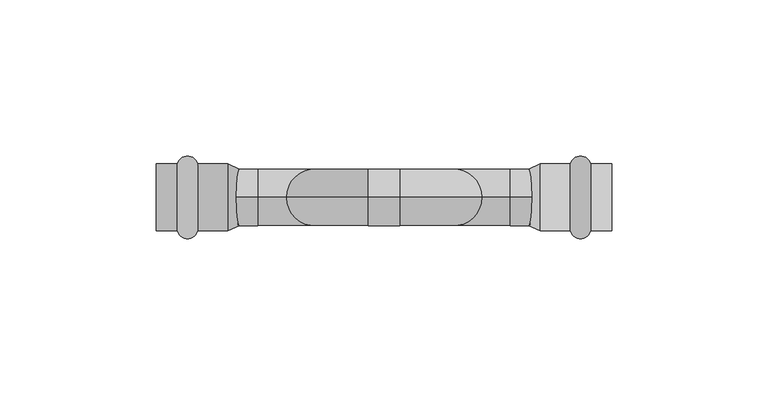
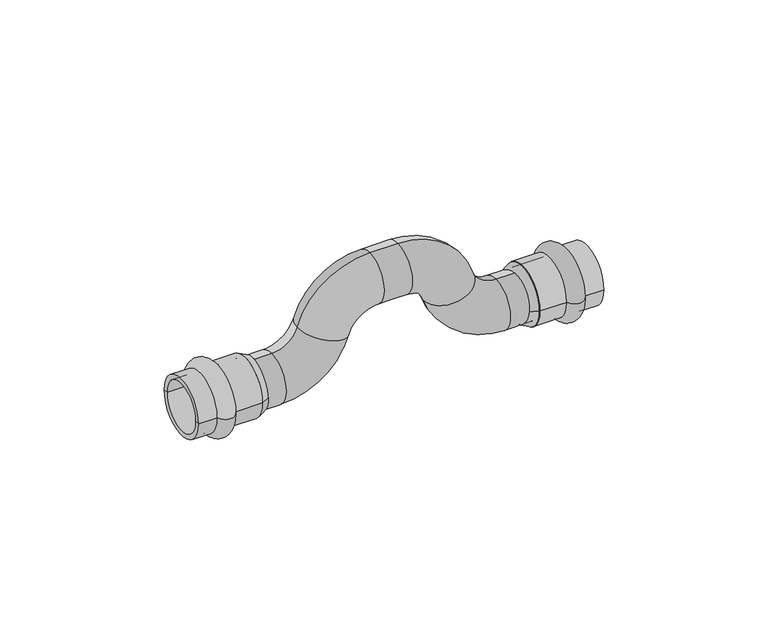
"""IFC4 building model written with IfcOpenShell, lengths in millimetres: pipe fitting geometry, VALTEC_VTi.971.I_Обвод (раструб–раструб)_Нержавеющая сталь : VTi.971.I."""

import ifcopenshell
import ifcopenshell.guid

model = None  # the IFC model being written
_history = None  # IfcOwnerHistory: only IFC2X3 demands one
_inside = {}  # id of a spatial element -> (the spatial element, [elements in it])
_under = {}  # id of a project, library or spatial element -> (it, [spatial elements below it])
_declared = {}  # id of a project -> (the project, [libraries it declares])
_typed = {}  # id of a type object -> (the type object, [elements of that type])
_made_of = {}  # id of a material, layer set ... -> (it, [elements and type objects made of it])


def new_model(schema):
    """Start an empty IFC model of exactly this schema.

    Asked for "IFC4X3", IfcOpenShell would pick the latest addendum, in which some entities
    have other attributes; the version numbers below select the first issue.
    IFC2X3 requires an IfcOwnerHistory on every rooted entity: one is made here for all.
    """
    global model, _history
    if schema == "IFC4X3":
        model = ifcopenshell.file(schema_version=(4, 3, 0, 0))
    else:
        model = ifcopenshell.file(schema=schema)
    _inside.clear()
    _under.clear()
    _declared.clear()
    _typed.clear()
    _made_of.clear()
    _history = None
    if model.schema == "IFC2X3":
        org = make("IfcOrganization", Name="unknown")
        user = make(
            "IfcPersonAndOrganization",
            ThePerson=make("IfcPerson", FamilyName="unknown"),
            TheOrganization=org,
        )
        app = make(
            "IfcApplication",
            ApplicationDeveloper=org,
            Version="unknown",
            ApplicationFullName="unknown",
            ApplicationIdentifier="unknown",
        )
        _history = make(
            "IfcOwnerHistory",
            OwningUser=user,
            OwningApplication=app,
            ChangeAction="ADDED",
            CreationDate=0,
        )
    return model


def make(cls, **values):
    """One entity of the class cls with the attributes given. An attribute that is None is left unset."""
    return model.create_entity(
        cls, **{name: value for name, value in values.items() if value is not None}
    )


def rooted(cls, **values):
    """An entity with a GlobalId (a new one), such as an element, a storey or a relation."""
    return make(cls, GlobalId=ifcopenshell.guid.new(), OwnerHistory=_history, **values)


def si_unit(unit_type, name, prefix=None):
    """IfcSIUnit, for example si_unit("LENGTHUNIT", "METRE", prefix="MILLI")."""
    return make("IfcSIUnit", UnitType=unit_type, Prefix=prefix, Name=name)


def assignment(units):
    """IfcUnitAssignment: the units of a project."""
    return None if units is None else make("IfcUnitAssignment", Units=units)


def point(xyz):
    """IfcCartesianPoint."""
    return None if xyz is None else make("IfcCartesianPoint", Coordinates=xyz)


def direction(xyz):
    """IfcDirection."""
    return None if xyz is None else make("IfcDirection", DirectionRatios=xyz)


def frame(location, z_axis=None, x_axis=None):
    """IfcAxis2Placement3D, a coordinate frame: its origin and axes. An axis left out is left unset."""
    return make(
        "IfcAxis2Placement3D",
        Location=point(location),
        Axis=direction(z_axis),
        RefDirection=direction(x_axis),
    )


def origin():
    """The frame at (0, 0, 0) with its axes left unset."""
    return frame((0.0, 0.0, 0.0))


def place(relative_to, where):
    """IfcLocalPlacement: puts the frame where relative to a parent placement (None: the world)."""
    return make(
        "IfcLocalPlacement", PlacementRelTo=relative_to, RelativePlacement=where
    )


def context(
    kind, dimensions, precision=None, world=None, true_north=None, identifier=None
):
    """IfcGeometricRepresentationContext, for example the 3D "Model" context."""
    return make(
        "IfcGeometricRepresentationContext",
        ContextIdentifier=identifier,
        ContextType=kind,
        CoordinateSpaceDimension=dimensions,
        Precision=precision,
        WorldCoordinateSystem=world,
        TrueNorth=true_north,
    )


def project(units=None, contexts=None):
    """IfcProject with its units and contexts."""
    return rooted(
        "IfcProject",
        Name="project",
        RepresentationContexts=contexts,
        UnitsInContext=assignment(units),
    )


def spatial(cls, under=None, at=None, **own):
    """A site, building, storey or space (cls), placed at a placement, below another one or the project."""
    s = rooted(cls, ObjectPlacement=at, **own)
    if under is not None:
        _under.setdefault(under.id(), (under, []))[1].append(s)
    return s


def polyline(points):
    """IfcPolyline through the points."""
    return make("IfcPolyline", Points=[point(p) for p in points])


def circle_curve(where, radius):
    """IfcCircle in the frame where."""
    return make("IfcCircle", Position=where, Radius=radius)


def ellipse_curve(where, semi_axis1, semi_axis2):
    """IfcEllipse in the frame where."""
    return make(
        "IfcEllipse", Position=where, SemiAxis1=semi_axis1, SemiAxis2=semi_axis2
    )


def trimmed(basis, trim1, trim2, sense, master):
    """IfcTrimmedCurve: the piece of a basis curve between two trims."""
    return make(
        "IfcTrimmedCurve",
        BasisCurve=basis,
        Trim1=trim1,
        Trim2=trim2,
        SenseAgreement=sense,
        MasterRepresentation=master,
    )


def shape(context_of_items, identifier, shape_type, items):
    """IfcShapeRepresentation: the items that make up one representation, for example the "Body"."""
    return make(
        "IfcShapeRepresentation",
        ContextOfItems=context_of_items,
        RepresentationIdentifier=identifier,
        RepresentationType=shape_type,
        Items=items,
    )


def source(mapping_origin, context_of_items, identifier, shape_type, items):
    """IfcRepresentationMap: a shape defined once, which mapped items show again and again."""
    return make(
        "IfcRepresentationMap",
        MappingOrigin=mapping_origin,
        MappedRepresentation=shape(context_of_items, identifier, shape_type, items),
    )


def transform(
    local_origin,
    x_axis=None,
    y_axis=None,
    z_axis=None,
    scale=None,
    scale2=None,
    scale3=None,
    uniform=True,
):
    """IfcCartesianTransformationOperator3D, or its non-uniform kind. x_axis, y_axis, z_axis: its Axis1, 2, 3."""
    if uniform:
        return make(
            "IfcCartesianTransformationOperator3D",
            Axis1=direction(x_axis),
            Axis2=direction(y_axis),
            LocalOrigin=point(local_origin),
            Scale=scale,
            Axis3=direction(z_axis),
        )
    return make(
        "IfcCartesianTransformationOperator3DnonUniform",
        Axis1=direction(x_axis),
        Axis2=direction(y_axis),
        LocalOrigin=point(local_origin),
        Scale=scale,
        Axis3=direction(z_axis),
        Scale2=scale2,
        Scale3=scale3,
    )


def mapped(mapping_source, mapping_target):
    """IfcMappedItem: shows the shape of a source again, moved by a transform."""
    return make(
        "IfcMappedItem", MappingSource=mapping_source, MappingTarget=mapping_target
    )


def made_of(thing, what):
    """Note that an element or type object is made of a material, layer set ...; save() writes the relation."""
    if what is not None:
        _made_of.setdefault(what.id(), (what, []))[1].append(thing)
    return thing


def element(
    cls,
    number,
    at=None,
    inside=None,
    cuts=None,
    type_object=None,
    material=None,
    context=None,
    identifier="Body",
    shape_type=None,
    held_by="IfcProductDefinitionShape",
    body=None,
    shapes=None,
    **own,
):
    """One element of the class cls, such as IfcWall. Its Tag is "e" and its number.

    at: its placement. inside: the storey or other place that contains it. cuts: it is an
    opening in that element (IfcRelVoidsElement). A single representation is given by context,
    identifier, shape_type and body (its items); several are given by shapes. held_by: the class
    of the entity that holds the representations. save() writes the other relations.
    """
    e = rooted(cls, Tag="e%d" % number, ObjectPlacement=at, **own)
    if body is not None:
        shapes = [shape(context, identifier, shape_type, body)]
    if shapes is not None:
        e.Representation = make(held_by, Representations=shapes)
    if inside is not None:
        _inside.setdefault(inside.id(), (inside, []))[1].append(e)
    if cuts is not None:
        rooted(
            "IfcRelVoidsElement", RelatingBuildingElement=cuts, RelatedOpeningElement=e
        )
    if type_object is not None:
        _typed.setdefault(type_object.id(), (type_object, []))[1].append(e)
    return made_of(e, material)


def aggregate(whole, parts):
    """IfcRelAggregates: a whole, such as a stair, and the parts it consists of."""
    return rooted("IfcRelAggregates", RelatingObject=whole, RelatedObjects=parts)


def save(model, path):
    """Write the relations noted so far, then the file.

    IfcRelAggregates (storeys below a building ...), IfcRelContainedInSpatialStructure (elements
    in a storey), IfcRelDefinesByType, IfcRelAssociatesMaterial and IfcRelDeclares: one each for
    every whole, place, type object, material and project.
    """
    for whole, parts in _under.values():
        aggregate(whole, parts)
    for where, things in _inside.values():
        rooted(
            "IfcRelContainedInSpatialStructure",
            RelatedElements=things,
            RelatingStructure=where,
        )
    for kind, things in _typed.values():
        rooted("IfcRelDefinesByType", RelatedObjects=things, RelatingType=kind)
    for what, things in _made_of.values():
        rooted("IfcRelAssociatesMaterial", RelatedObjects=things, RelatingMaterial=what)
    for by, libraries in _declared.values():
        rooted("IfcRelDeclares", RelatingContext=by, RelatedDefinitions=libraries)
    model.write(path)


def plane_surface(at):
    """IfcPlane: the flat surface through the origin of the frame at, square to its z axis."""
    return make("IfcPlane", Position=at)


def cylinder_surface(at, radius):
    """IfcCylindricalSurface: all points at the distance radius from the z axis of the frame at."""
    return make("IfcCylindricalSurface", Position=at, Radius=radius)


def revolved_surface(curve, axis_point, axis_direction):
    """IfcSurfaceOfRevolution: the curve turned about the line through axis_point along axis_direction."""
    return make(
        "IfcSurfaceOfRevolution",
        SweptCurve=make("IfcArbitraryOpenProfileDef", ProfileType="CURVE", Curve=curve),
        AxisPosition=make("IfcAxis1Placement", Location=point(axis_point), Axis=direction(axis_direction)),
    )


def advanced_brep(points, edges, surfaces, faces):
    """IfcAdvancedBrep: a solid bounded by faces that lie on surfaces and meet in shared edges.

    An edge is (start, end): straight between two places in points (the first is 0);
    or (start, end, curve); or (start, end, curve, False) where it runs against its curve.
    A face is (place in surfaces, loops), or (place, loops, False) where it looks against
    its surface's normal. A loop lists edges by number (the first is 1), with a minus sign
    where the edge is run from its end to its start. The first loop is the outer one.
    """
    corners = [point(p) for p in points]
    vertices = [make("IfcVertexPoint", VertexGeometry=c) for c in corners]
    made = []
    for start, end, *more in edges:
        made.append(
            make(
                "IfcEdgeCurve",
                EdgeStart=vertices[start],
                EdgeEnd=vertices[end],
                EdgeGeometry=more[0] if more else make("IfcPolyline", Points=[corners[start], corners[end]]),
                SameSense=more[1] if len(more) > 1 else True,
            )
        )
    hull = []
    for where, loops, *sense in faces:
        bounds = []
        for j, loop in enumerate(loops):
            ring = [make("IfcOrientedEdge", EdgeElement=made[abs(k) - 1], Orientation=k > 0) for k in loop]
            bounds.append(
                make(
                    "IfcFaceOuterBound" if j == 0 else "IfcFaceBound",
                    Bound=make("IfcEdgeLoop", EdgeList=ring),
                    Orientation=True,
                )
            )
        hull.append(make("IfcAdvancedFace", Bounds=bounds, FaceSurface=surfaces[where], SameSense=sense[0] if sense else True))
    return make("IfcAdvancedBrep", Outer=make("IfcClosedShell", CfsFaces=hull))


def pipe_fitting_1103fa87(model_context):
    return source(origin(), model_context, "Body", "AdvancedBrep", [
        advanced_brep(
        [(-50.0, 0.0, -9.0), (-50.0, 0.0, 9.0), (-40.5, 0.0, -9.0), (-40.5, 0.0, 9.0), (-5.0, 0.0, 35.0), (-5.0, 0.0, 17.0), (5.0, 0.0, 17.0), (5.0, 0.0, 35.0), (50.0, 0.0, -9.0), (50.0, 0.0, 9.0), (40.5, 0.0, 9.0), (40.5, 0.0, -9.0), (-31.3305036, 0.0, 15.7156875), (-14.1694964, 0.0, 10.2843125), (31.3305036, 0.0, 15.7156875), (14.1694964, 0.0, 10.2843125)],
        [
            (0, 1, circle_curve(frame((-50.0, 0.0, 0.0), z_axis=(-1.0, 0.0, 0.0), x_axis=(0.0, 0.0, 1.0)), 9.0)),
            (1, 0, circle_curve(frame((-50.0, 0.0, 0.0), z_axis=(-1.0, 0.0, 0.0), x_axis=(0.0, 0.0, 1.0)), 9.0)),
            (0, 2),
            (2, 3, circle_curve(frame((-40.5, 0.0, 0.0), z_axis=(-1.0, 0.0, 0.0), x_axis=(0.0, 0.0, 1.0)), 9.0)),
            (3, 1),
            (3, 2, circle_curve(frame((-40.5, 0.0, 0.0), z_axis=(-1.0, 0.0, 0.0), x_axis=(0.0, 0.0, 1.0)), 9.0)),
            (4, 5, circle_curve(frame((-5.0, 0.0, 26.0), z_axis=(1.0, 0.0, 0.0), x_axis=(0.0, 0.0, 1.0)), 9.0)),
            (5, 6),
            (6, 7, circle_curve(frame((5.0, 0.0, 26.0), z_axis=(-1.0, 0.0, 0.0), x_axis=(0.0, 0.0, 1.0)), 9.0)),
            (7, 4),
            (5, 4, circle_curve(frame((-5.0, 0.0, 26.0), z_axis=(1.0, 0.0, 0.0), x_axis=(0.0, 0.0, 1.0)), 9.0)),
            (7, 6, circle_curve(frame((5.0, 0.0, 26.0), z_axis=(-1.0, 0.0, 0.0), x_axis=(0.0, 0.0, 1.0)), 9.0)),
            (8, 9, circle_curve(frame((50.0, 0.0, 0.0), z_axis=(1.0, 0.0, 0.0), x_axis=(0.0, 0.0, 1.0)), 9.0)),
            (9, 8, circle_curve(frame((50.0, 0.0, 0.0), z_axis=(1.0, 0.0, 0.0), x_axis=(0.0, 0.0, 1.0)), 9.0)),
            (10, 11, circle_curve(frame((40.5, 0.0, 0.0), z_axis=(1.0, 0.0, 0.0), x_axis=(0.0, 0.0, 1.0)), 9.0)),
            (11, 8),
            (9, 10),
            (11, 10, circle_curve(frame((40.5, 0.0, 0.0), z_axis=(1.0, 0.0, 0.0), x_axis=(0.0, 0.0, 1.0)), 9.0)),
            (12, 3, circle_curve(frame((-40.5, 0.0, 18.6177885), z_axis=(0.0, 1.0, 0.0), x_axis=(0.0, 0.0, -1.0)), 9.6177885)),
            (2, 13, circle_curve(frame((-40.5, 0.0, 18.6177885), z_axis=(0.0, -1.0, 0.0), x_axis=(0.0, 0.0, -1.0)), 27.6177885)),
            (13, 12, circle_curve(frame((-22.75, 0.0, 13.0), z_axis=(-0.3017430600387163, 0.0, -0.9533892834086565), x_axis=(-0.9533892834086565, 0.0, 0.3017430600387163)), 9.0)),
            (12, 13, circle_curve(frame((-22.75, 0.0, 13.0), z_axis=(-0.30174306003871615, 0.0, -0.9533892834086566), x_axis=(-0.9533892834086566, 0.0, 0.30174306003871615)), 9.0)),
            (4, 12, circle_curve(frame((-5.0, 0.0, 7.3822115), z_axis=(0.0, -1.0, 0.0), x_axis=(-0.9533892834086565, 0.0, 0.3017430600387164)), 27.6177885)),
            (13, 5, circle_curve(frame((-5.0, 0.0, 7.3822115), z_axis=(0.0, 1.0, 0.0), x_axis=(-0.9533892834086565, 0.0, 0.3017430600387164)), 9.6177885)),
            (14, 7, circle_curve(frame((5.0, 0.0, 7.3822115), z_axis=(0.0, -1.0, 0.0), x_axis=(0.0, 0.0, 1.0)), 27.6177885)),
            (6, 15, circle_curve(frame((5.0, 0.0, 7.3822115), z_axis=(0.0, 1.0, 0.0), x_axis=(0.0, 0.0, 1.0)), 9.6177885)),
            (15, 14, circle_curve(frame((22.75, 0.0, 13.0), z_axis=(-0.3017430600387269, 0.0, 0.9533892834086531), x_axis=(0.9533892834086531, 0.0, 0.3017430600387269)), 9.0)),
            (14, 15, circle_curve(frame((22.75, 0.0, 13.0), z_axis=(-0.3017430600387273, 0.0, 0.953389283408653), x_axis=(0.953389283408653, 0.0, 0.3017430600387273)), 9.0)),
            (10, 14, circle_curve(frame((40.5, 0.0, 18.6177885), z_axis=(0.0, 1.0, 0.0), x_axis=(-0.953389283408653, 0.0, -0.3017430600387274)), 9.6177885)),
            (15, 11, circle_curve(frame((40.5, 0.0, 18.6177885), z_axis=(0.0, -1.0, 0.0), x_axis=(-0.953389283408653, 0.0, -0.3017430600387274)), 27.6177885)),
        ],
        [
            plane_surface(frame((-50.0, 0.0, 0.0), z_axis=(-1.0, 0.0, 0.0), x_axis=(0.0, -1.0, 0.0))),
            cylinder_surface(frame((-50.0, 0.0, 0.0), z_axis=(-1.0, 0.0, 0.0), x_axis=(0.0, 0.0, 1.0)), 9.0),
            cylinder_surface(frame((-5.0, 0.0, 26.0), z_axis=(-1.0, 0.0, 0.0), x_axis=(0.0, 0.0, 1.0)), 9.0),
            plane_surface(frame((50.0, 0.0, 0.0), z_axis=(1.0, 0.0, 0.0), x_axis=(0.0, -1.0, 0.0))),
            cylinder_surface(frame((40.5, 0.0, 0.0), z_axis=(-1.0, 0.0, 0.0), x_axis=(0.0, 0.0, 1.0)), 9.0),
            revolved_surface(trimmed(ellipse_curve(frame((-40.5, 0.0, 0.0), z_axis=(-1.0, 0.0, 0.0), x_axis=(0.0, 0.0, 1.0)), 9.0, 9.0), [point((-40.5, 0.0, -9.0))], [point((-40.5, 0.0, 9.0))], True, "CARTESIAN"), (-40.5, 0.0, 18.6177885), (0.0, -1.0, 0.0)),
            revolved_surface(trimmed(ellipse_curve(frame((-40.5, 0.0, 0.0), z_axis=(-1.0, 0.0, 0.0), x_axis=(0.0, 0.0, 1.0)), 9.0, 9.0), [point((-40.5, 0.0, 9.0))], [point((-40.5, 0.0, -9.0))], True, "CARTESIAN"), (-40.5, 0.0, 18.6177885), (0.0, -1.0, 0.0)),
            revolved_surface(trimmed(ellipse_curve(frame((-22.75, 0.0, 13.0), z_axis=(-0.30174306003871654, 0.0, -0.9533892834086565), x_axis=(-0.9533892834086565, 0.0, 0.30174306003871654)), 9.0, 9.0), [point((-14.1694964, 0.0, 10.2843125))], [point((-31.3305036, 0.0, 15.7156875))], True, "CARTESIAN"), (-5.0, 0.0, 7.3822115), (0.0, 1.0, 0.0)),
            revolved_surface(trimmed(ellipse_curve(frame((-22.75, 0.0, 13.0), z_axis=(-0.30174306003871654, 0.0, -0.9533892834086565), x_axis=(-0.9533892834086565, 0.0, 0.30174306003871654)), 9.0, 9.0), [point((-31.3305036, 0.0, 15.7156875))], [point((-14.1694964, 0.0, 10.2843125))], True, "CARTESIAN"), (-5.0, 0.0, 7.3822115), (0.0, 1.0, 0.0)),
            revolved_surface(trimmed(ellipse_curve(frame((5.0, 0.0, 26.0), z_axis=(-1.0, 0.0, 0.0), x_axis=(0.0, 0.0, 1.0)), 9.0, 9.0), [point((5.0, 0.0, 17.0))], [point((5.0, 0.0, 35.0))], True, "CARTESIAN"), (5.0, 0.0, 7.3822115), (0.0, 1.0, 0.0)),
            revolved_surface(trimmed(ellipse_curve(frame((5.0, 0.0, 26.0), z_axis=(-1.0, 0.0, 0.0), x_axis=(0.0, 0.0, 1.0)), 9.0, 9.0), [point((5.0, 0.0, 35.0))], [point((5.0, 0.0, 17.0))], True, "CARTESIAN"), (5.0, 0.0, 7.3822115), (0.0, 1.0, 0.0)),
            revolved_surface(trimmed(ellipse_curve(frame((22.75, 0.0, 13.0), z_axis=(-0.30174306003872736, 0.0, 0.953389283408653), x_axis=(0.953389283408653, 0.0, 0.30174306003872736)), 9.0, 9.0), [point((14.1694964, 0.0, 10.2843125))], [point((31.3305036, 0.0, 15.7156875))], True, "CARTESIAN"), (40.5, 0.0, 18.6177885), (0.0, -1.0, 0.0)),
            revolved_surface(trimmed(ellipse_curve(frame((22.75, 0.0, 13.0), z_axis=(-0.30174306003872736, 0.0, 0.953389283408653), x_axis=(0.953389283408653, 0.0, 0.30174306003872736)), 9.0, 9.0), [point((31.3305036, 0.0, 15.7156875))], [point((14.1694964, 0.0, 10.2843125))], True, "CARTESIAN"), (40.5, 0.0, 18.6177885), (0.0, -1.0, 0.0)),
        ],
        [
            (0, [[1, 2]]),
            (1, [[-1, 3, 4, 5]]),
            (1, [[-2, -5, 6, -3]]),
            (2, [[7, 8, 9, 10]]),
            (2, [[11, -10, 12, -8]]),
            (3, [[13, 14]]),
            (4, [[15, 16, -14, 17]]),
            (4, [[18, -17, -13, -16]]),
            (5, [[19, -4, 20, 21]]),
            (6, [[-20, -6, -19, 22]]),
            (7, [[23, -21, 24, -7]]),
            (8, [[-24, -22, -23, -11]]),
            (9, [[25, -9, 26, 27]]),
            (10, [[-26, -12, -25, 28]]),
            (11, [[29, -27, 30, -15]]),
            (12, [[-30, -28, -29, -18]]),
        ],
    ),
        advanced_brep(
        [(66.2287193, -10.75, 0.0), (59.6712807, -10.75, 0.0), (59.6712807, 10.75, 0.0), (66.2287193, 10.75, 0.0), (73.0, -10.75, 0.0), (73.0, 10.75, 0.0), (73.0, -9.0, 0.0), (73.0, 9.0, 0.0), (50.0, -9.0, 0.0), (50.0, 9.0, 0.0), (50.0, -10.75, 0.0), (50.0, 10.75, 0.0)],
        [
            (0, 1, circle_curve(frame((62.95, -9.85, 0.0), z_axis=(0.0, 0.0, -1.0), x_axis=(-1.0, 0.0, 0.0)), 3.4)),
            (1, 2, circle_curve(frame((59.6712807, 0.0, 0.0), z_axis=(1.0, 0.0, 0.0), x_axis=(0.0, 1.0, 0.0)), 10.75)),
            (2, 3, circle_curve(frame((62.95, 9.85, 0.0), z_axis=(0.0, 0.0, -1.0), x_axis=(-1.0, 0.0, 0.0)), 3.4)),
            (3, 0, circle_curve(frame((66.2287193, 0.0, 0.0), z_axis=(-1.0, 0.0, 0.0), x_axis=(0.0, 1.0, 0.0)), 10.75)),
            (2, 1, circle_curve(frame((59.6712807, 0.0, 0.0), z_axis=(1.0, 0.0, 0.0), x_axis=(0.0, 1.0, 0.0)), 10.75)),
            (0, 3, circle_curve(frame((66.2287193, 0.0, 0.0), z_axis=(-1.0, 0.0, 0.0), x_axis=(0.0, 1.0, 0.0)), 10.75)),
            (4, 0),
            (3, 5),
            (5, 4, circle_curve(frame((73.0, 0.0, 0.0), z_axis=(-1.0, 0.0, 0.0), x_axis=(0.0, 1.0, 0.0)), 10.75)),
            (4, 5, circle_curve(frame((73.0, 0.0, 0.0), z_axis=(-1.0, 0.0, 0.0), x_axis=(0.0, 1.0, 0.0)), 10.75)),
            (6, 4),
            (5, 7),
            (7, 6, circle_curve(frame((73.0, 0.0, 0.0), z_axis=(-1.0, 0.0, 0.0), x_axis=(0.0, 1.0, 0.0)), 9.0)),
            (6, 7, circle_curve(frame((73.0, 0.0, 0.0), z_axis=(-1.0, 0.0, 0.0), x_axis=(0.0, 1.0, 0.0)), 9.0)),
            (8, 6),
            (7, 9),
            (9, 8, circle_curve(frame((50.0, 0.0, 0.0), z_axis=(-1.0, 0.0, 0.0), x_axis=(0.0, 1.0, 0.0)), 9.0)),
            (8, 9, circle_curve(frame((50.0, 0.0, 0.0), z_axis=(-1.0, 0.0, 0.0), x_axis=(0.0, 1.0, 0.0)), 9.0)),
            (10, 8),
            (9, 11),
            (11, 10, circle_curve(frame((50.0, 0.0, 0.0), z_axis=(-1.0, 0.0, 0.0), x_axis=(0.0, 1.0, 0.0)), 10.75)),
            (10, 11, circle_curve(frame((50.0, 0.0, 0.0), z_axis=(-1.0, 0.0, 0.0), x_axis=(0.0, 1.0, 0.0)), 10.75)),
            (1, 10),
            (11, 2),
        ],
        [
            revolved_surface(trimmed(ellipse_curve(frame((62.95, 9.85, 0.0), z_axis=(0.0, 0.0, -1.0), x_axis=(-1.0, 0.0, 0.0)), 3.4, 3.4), [point((59.6712807, 10.75, 0.0))], [point((66.2287193, 10.75, 0.0))], True, "CARTESIAN"), (76.5364426, 0.0, 0.0), (1.0, 0.0, 0.0)),
            cylinder_surface(frame((76.5364426, 0.0, 0.0), z_axis=(1.0, 0.0, 0.0), x_axis=(0.0, 1.0, 0.0)), 10.75),
            plane_surface(frame((73.0, 0.0, 0.0), z_axis=(1.0, 0.0, 0.0), x_axis=(0.0, 1.0, 0.0))),
            revolved_surface(polyline([(73.0, 9.0, 0.0), (50.0, 9.0, 0.0)]), (76.5364426, 0.0, 0.0), (1.0, 0.0, 0.0)),
            plane_surface(frame((50.0, 0.0, 0.0), z_axis=(-1.0, 0.0, 0.0), x_axis=(0.0, 1.0, 0.0))),
        ],
        [
            (0, [[1, 2, 3, 4]]),
            (0, [[-3, 5, -1, 6]]),
            (1, [[7, -4, 8, 9]]),
            (1, [[-8, -6, -7, 10]]),
            (2, [[11, -9, 12, 13]]),
            (2, [[-12, -10, -11, 14]]),
            (3, [[15, -13, 16, 17]]),
            (3, [[-16, -14, -15, 18]]),
            (4, [[19, -17, 20, 21]]),
            (4, [[-20, -18, -19, 22]]),
            (1, [[23, -21, 24, -2]]),
            (1, [[-24, -22, -23, -5]]),
        ],
    ),
        advanced_brep(
        [(-66.2287193, -10.75, 0.0), (-66.2287193, 10.75, 0.0), (-59.6712807, 10.75, 0.0), (-59.6712807, -10.75, 0.0), (-73.0, -10.75, 0.0), (-73.0, 10.75, 0.0), (-73.0, -9.0, 0.0), (-73.0, 9.0, 0.0), (-50.0, -9.0, 0.0), (-50.0, 9.0, 0.0), (-50.0, -10.75, 0.0), (-50.0, 10.75, 0.0)],
        [
            (0, 1, circle_curve(frame((-66.2287193, 0.0, 0.0), z_axis=(1.0, 0.0, 0.0), x_axis=(0.0, 1.0, 0.0)), 10.75)),
            (1, 2, circle_curve(frame((-62.95, 9.85, 0.0), z_axis=(0.0, 0.0, -1.0), x_axis=(1.0, 0.0, 0.0)), 3.4)),
            (2, 3, circle_curve(frame((-59.6712807, 0.0, 0.0), z_axis=(-1.0, 0.0, 0.0), x_axis=(0.0, 1.0, 0.0)), 10.75)),
            (3, 0, circle_curve(frame((-62.95, -9.85, 0.0), z_axis=(0.0, 0.0, -1.0), x_axis=(1.0, 0.0, 0.0)), 3.4)),
            (1, 0, circle_curve(frame((-66.2287193, 0.0, 0.0), z_axis=(1.0, 0.0, 0.0), x_axis=(0.0, 1.0, 0.0)), 10.75)),
            (3, 2, circle_curve(frame((-59.6712807, 0.0, 0.0), z_axis=(-1.0, 0.0, 0.0), x_axis=(0.0, 1.0, 0.0)), 10.75)),
            (4, 5, circle_curve(frame((-73.0, 0.0, 0.0), z_axis=(1.0, 0.0, 0.0), x_axis=(0.0, 1.0, 0.0)), 10.75)),
            (5, 1),
            (0, 4),
            (5, 4, circle_curve(frame((-73.0, 0.0, 0.0), z_axis=(1.0, 0.0, 0.0), x_axis=(0.0, 1.0, 0.0)), 10.75)),
            (6, 7, circle_curve(frame((-73.0, 0.0, 0.0), z_axis=(1.0, 0.0, 0.0), x_axis=(0.0, 1.0, 0.0)), 9.0)),
            (7, 5),
            (4, 6),
            (7, 6, circle_curve(frame((-73.0, 0.0, 0.0), z_axis=(1.0, 0.0, 0.0), x_axis=(0.0, 1.0, 0.0)), 9.0)),
            (8, 9, circle_curve(frame((-50.0, 0.0, 0.0), z_axis=(1.0, 0.0, 0.0), x_axis=(0.0, 1.0, 0.0)), 9.0)),
            (9, 7),
            (6, 8),
            (9, 8, circle_curve(frame((-50.0, 0.0, 0.0), z_axis=(1.0, 0.0, 0.0), x_axis=(0.0, 1.0, 0.0)), 9.0)),
            (10, 11, circle_curve(frame((-50.0, 0.0, 0.0), z_axis=(1.0, 0.0, 0.0), x_axis=(0.0, 1.0, 0.0)), 10.75)),
            (11, 9),
            (8, 10),
            (11, 10, circle_curve(frame((-50.0, 0.0, 0.0), z_axis=(1.0, 0.0, 0.0), x_axis=(0.0, 1.0, 0.0)), 10.75)),
            (2, 11),
            (10, 3),
        ],
        [
            revolved_surface(trimmed(ellipse_curve(frame((-62.95, 9.85, 0.0), z_axis=(0.0, 0.0, 1.0), x_axis=(1.0, 0.0, 0.0)), 3.4, 3.4), [point((-59.6712807, 10.75, 0.0))], [point((-66.2287193, 10.75, 0.0))], True, "CARTESIAN"), (-76.5364426, 0.0, 0.0), (-1.0, 0.0, 0.0)),
            cylinder_surface(frame((-76.5364426, 0.0, 0.0), z_axis=(-1.0, 0.0, 0.0), x_axis=(0.0, 1.0, 0.0)), 10.75),
            plane_surface(frame((-73.0, 0.0, 0.0), z_axis=(-1.0, 0.0, 0.0), x_axis=(0.0, 1.0, 0.0))),
            revolved_surface(polyline([(-73.0, 9.0, 0.0), (-50.0, 9.0, 0.0)]), (-76.5364426, 0.0, 0.0), (-1.0, 0.0, 0.0)),
            plane_surface(frame((-50.0, 0.0, 0.0), z_axis=(1.0, 0.0, 0.0), x_axis=(0.0, 1.0, 0.0))),
        ],
        [
            (0, [[1, 2, 3, 4]]),
            (0, [[5, -4, 6, -2]]),
            (1, [[7, 8, -1, 9]]),
            (1, [[10, -9, -5, -8]]),
            (2, [[11, 12, -7, 13]]),
            (2, [[14, -13, -10, -12]]),
            (3, [[15, 16, -11, 17]]),
            (3, [[18, -17, -14, -16]]),
            (4, [[19, 20, -15, 21]]),
            (4, [[22, -21, -18, -20]]),
            (1, [[-3, 23, -19, 24]]),
            (1, [[-6, -24, -22, -23]]),
        ],
    ),
        advanced_brep(
        [(50.0, 10.75, 0.0), (50.0, -10.75, 0.0), (46.3, 9.0, 0.0), (46.3, -9.0, 0.0)],
        [
            (0, 1, circle_curve(frame((50.0, 0.0, 0.0), z_axis=(1.0, 0.0, 0.0), x_axis=(0.0, 1.0, 0.0)), 10.75)),
            (1, 0, circle_curve(frame((50.0, 0.0, 0.0), z_axis=(1.0, 0.0, 0.0), x_axis=(0.0, -1.0, 0.0)), 10.75)),
            (2, 3, circle_curve(frame((46.3, 0.0, 0.0), z_axis=(-1.0, 0.0, 0.0), x_axis=(0.0, -1.0, 0.0)), 9.0)),
            (3, 2, circle_curve(frame((46.3, 0.0, 0.0), z_axis=(-1.0, 0.0, 0.0), x_axis=(0.0, 1.0, 0.0)), 9.0)),
            (1, 3),
            (2, 0),
        ],
        [
            plane_surface(frame((50.0, 0.0, 0.0), z_axis=(1.0, 0.0, 0.0), x_axis=(0.0, 0.0, -1.0))),
            plane_surface(frame((46.3, 0.0, 0.0), z_axis=(-1.0, 0.0, 0.0), x_axis=(0.0, 0.0, -1.0))),
            revolved_surface(polyline([(46.3, 8.999999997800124, 0.0), (50.0, 10.75, 0.0)]), (27.2714286, 0.0, 0.0), (1.0, 0.0, 0.0)),
            revolved_surface(polyline([(46.3, -8.999999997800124, 0.0), (50.0, -10.75, 0.0)]), (27.2714286, 0.0, 0.0), (1.0, 0.0, 0.0)),
        ],
        [
            (0, [[1, 2]]),
            (1, [[3, 4]]),
            (2, [[-2, 5, -3, 6]]),
            (3, [[-1, -6, -4, -5]]),
        ],
    ),
        advanced_brep(
        [(-50.0, 10.75, 0.0), (-50.0, -10.75, 0.0), (-46.3, 9.0, 0.0), (-46.3, -9.0, 0.0)],
        [
            (0, 1, circle_curve(frame((-50.0, 0.0, 0.0), z_axis=(-1.0, 0.0, 0.0), x_axis=(0.0, 1.0, 0.0)), 10.75)),
            (1, 0, circle_curve(frame((-50.0, 0.0, 0.0), z_axis=(-1.0, 0.0, 0.0), x_axis=(0.0, -1.0, 0.0)), 10.75)),
            (2, 3, circle_curve(frame((-46.3, 0.0, 0.0), z_axis=(1.0, 0.0, 0.0), x_axis=(0.0, -1.0, 0.0)), 9.0)),
            (3, 2, circle_curve(frame((-46.3, 0.0, 0.0), z_axis=(1.0, 0.0, 0.0), x_axis=(0.0, 1.0, 0.0)), 9.0)),
            (0, 2),
            (3, 1),
        ],
        [
            plane_surface(frame((-50.0, 0.0, 0.0), z_axis=(-1.0, 0.0, 0.0), x_axis=(0.0, 0.0, 1.0))),
            plane_surface(frame((-46.3, 0.0, 0.0), z_axis=(1.0, 0.0, 0.0), x_axis=(0.0, 0.0, 1.0))),
            revolved_surface(polyline([(-46.3, -8.999999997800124, 0.0), (-50.0, -10.75, 0.0)]), (-27.2714286, 0.0, 0.0), (-1.0, 0.0, 0.0)),
            revolved_surface(polyline([(-46.3, 8.999999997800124, 0.0), (-50.0, 10.75, 0.0)]), (-27.2714286, 0.0, 0.0), (-1.0, 0.0, 0.0)),
        ],
        [
            (0, [[1, 2]]),
            (1, [[3, 4]]),
            (2, [[-1, 5, -4, 6]]),
            (3, [[-2, -6, -3, -5]]),
        ],
    ),
    ])


if __name__ == "__main__":
    model = new_model("IFC4")
    model_context = context("Model", 3, world=origin())
    ifc_project = project(units=[si_unit("LENGTHUNIT", "METRE", prefix="MILLI")], contexts=[model_context])
    site = spatial("IfcSite", under=ifc_project)
    building = spatial("IfcBuilding", under=site)
    placement = place(None, origin())
    pipe_fitting_shape = pipe_fitting_1103fa87(model_context)
    element("IfcPipeFitting", 1, ObjectType="VALTEC_VTi.971.I_Обвод (раструб–раструб)_Нержавеющая сталь : VTi.971.I", at=placement, inside=building, context=model_context, shape_type="MappedRepresentation", body=[
        mapped(pipe_fitting_shape, transform((0.0, 0.0, 0.0), x_axis=(1.0, 0.0, 0.0), y_axis=(0.0, 1.0, 0.0), z_axis=(0.0, 0.0, 1.0))),
    ])
    save(model, "model.ifc")
